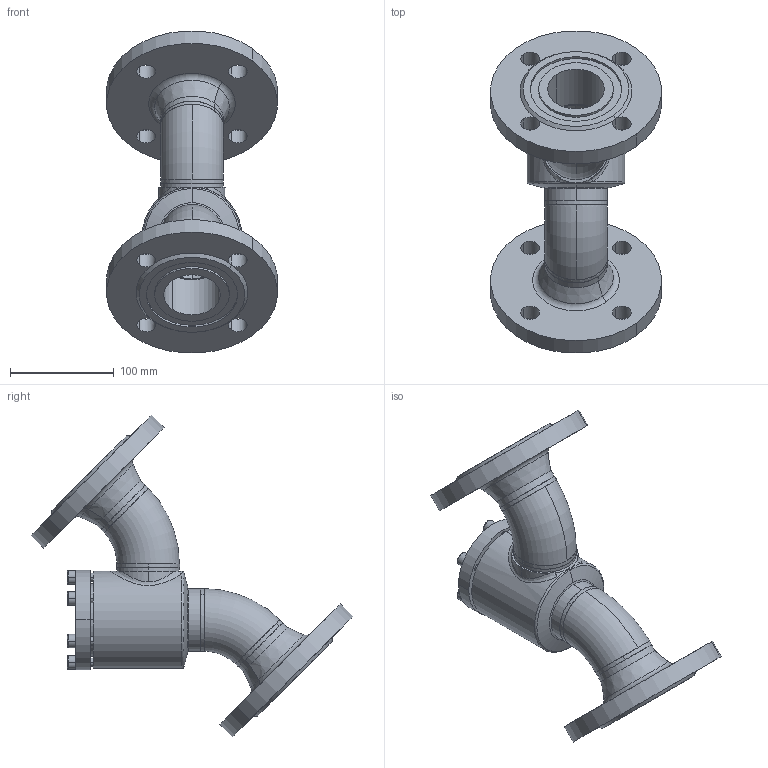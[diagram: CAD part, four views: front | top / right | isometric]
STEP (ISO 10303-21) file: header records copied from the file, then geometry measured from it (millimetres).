
FILE_DESCRIPTION (( 'STEP AP214' ), '1' );
FILE_NAME ('RV28320D15-DN050_DIN-FL-N_PS40.STEP', '2006-04-28T05:21:49', ( 'Herr Grams' ), ( 'AWP GmbH' ), 'SwSTEP 2.0', 'SolidWorks 2002296', '' );
FILE_SCHEMA (( 'AUTOMOTIVE_DESIGN' ));
Length unit declared in the file: millimetre
Products named in the file (13): RV28320D15-DN050_DIN-FL-N_PS40; Gehäuse-kpl16320-DN050_DIN_PS40_Standard; Gehäuse-kpl16300-DN050_R1_Standard; bead16300-Geh-050-1_Standard; Gehäuse16300-DN050_Standard; Rohrbogen 45°_R1-Fase_Rohrbogen-DN050-45°; bead16300-Geh-050-2_Standard; Flansch-DIN2635-Nut_PS40_DIN-Flansch-DN050_PS40-Nut; bead16320-DN050-2_Standard; bead16320-DN050-1_Standard; RV28300E15_Deck+Schr-DN40-50_Standard; Deckel28300E15-DN40-50_Standard; Zylinderschraube-DIN912_M 8x 25
Assembly tree (19 placements, depth 4):
  RV28320D15-DN050_DIN-FL-N_PS40
    Gehäuse-kpl16320-DN050_DIN_PS40_Standard
      bead16320-DN050-1_Standard
      Flansch-DIN2635-Nut_PS40_DIN-Flansch-DN050_PS40-Nut  x2
      Gehäuse-kpl16300-DN050_R1_Standard
        Rohrbogen 45°_R1-Fase_Rohrbogen-DN050-45°  x2
        bead16300-Geh-050-2_Standard
        bead16300-Geh-050-1_Standard
        Gehäuse16300-DN050_Standard
      bead16320-DN050-2_Standard
    RV28300E15_Deck+Schr-DN40-50_Standard
      Zylinderschraube-DIN912_M 8x 25  x6
      Deckel28300E15-DN40-50_Standard
Bounding box: 164.37 x 310.28 x 310.28 mm (x, y, z)
Volume: 1304326.2 mm3; surface area: 278342.2 mm2
Topology: 16 solids, 16 shells, 289 faces, 673 edges, 425 vertices
Faces by surface type: cylinder 97, plane 87, cone 60, torus 26, bspline 19
Entity records: 53827 total; most frequent: CARTESIAN_POINT 49573, DIRECTION 768, ORIENTED_EDGE 758, EDGE_CURVE 379, AXIS2_PLACEMENT_3D 326, VERTEX_POINT 239, EDGE_LOOP 192, CIRCLE 163
